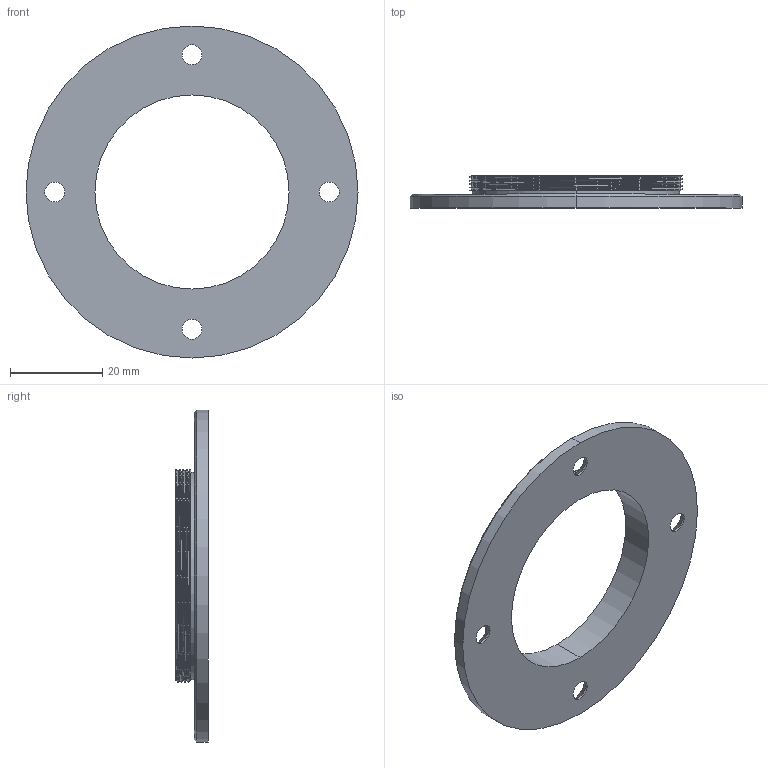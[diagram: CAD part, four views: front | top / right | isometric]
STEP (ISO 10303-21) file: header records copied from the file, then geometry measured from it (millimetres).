
FILE_DESCRIPTION (( 'STEP AP214' ), '1' );
FILE_NAME ('ADP0001.step', '2022-09-16T13:03:13', ( '' ), ( '' ), 'SwSTEP 2.0', 'SolidWorks 2022', '' );
FILE_SCHEMA (( 'AUTOMOTIVE_DESIGN' ));
Length unit declared in the file: millimetre
Products named in the file (1): ADP0001
Bounding box: 71.85 x 7 x 71.85 mm (x, y, z)
Volume: 8506.7 mm3; surface area: 7870.2 mm2
Topology: 1 solids, 1 shells, 52 faces, 134 edges, 86 vertices
Faces by surface type: cylinder 34, cone 10, plane 6, bspline 2
Entity records: 2828 total; most frequent: CARTESIAN_POINT 1027, ORIENTED_EDGE 268, DIRECTION 236, EDGE_CURVE 134, AXIS2_PLACEMENT_3D 94, VERTEX_POINT 86, EDGE_LOOP 64, UNCERTAINTY_MEASURE_WITH_UNIT 55
